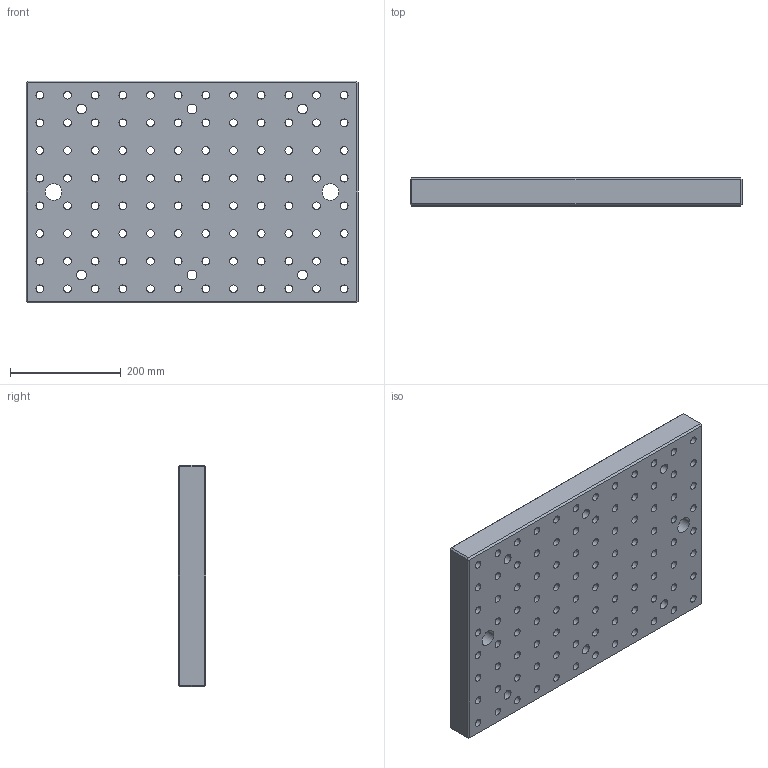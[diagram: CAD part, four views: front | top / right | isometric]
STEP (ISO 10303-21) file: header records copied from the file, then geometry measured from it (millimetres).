
FILE_DESCRIPTION((''),'2;1');
FILE_NAME('FG_WH_BASPL_RCG16NP001','2026-05-18T16:28:44',('Admin'),(''),'CREO PARAMETRIC BY PTC INC, 2025010','CREO PARAMETRIC BY PTC INC, 2025010','');
FILE_SCHEMA(('CONFIG_CONTROL_DESIGN'));
Length unit declared in the file: millimetre
Products named in the file (1): FG_WH_BASPL_RCG16NP001
Bounding box: 600 x 50 x 400 mm (x, y, z)
Volume: 10995164.9 mm3; surface area: 953675.9 mm2
Topology: 1 solids, 97 shells, 828 faces, 2060 edges, 1432 vertices
Faces by surface type: cylinder 604, plane 224
Entity records: 25887 total; most frequent: DIRECTION 5118, CARTESIAN_POINT 4321, ORIENTED_EDGE 3736, AXIS2_PLACEMENT_3D 2229, EDGE_CURVE 2060, VERTEX_POINT 1432, CIRCLE 1400, EDGE_LOOP 1234
